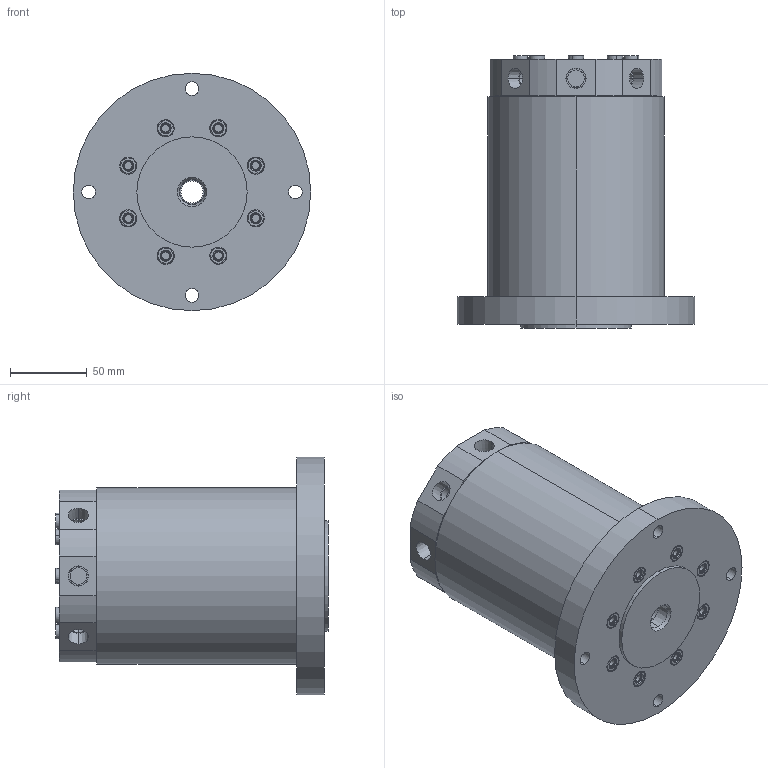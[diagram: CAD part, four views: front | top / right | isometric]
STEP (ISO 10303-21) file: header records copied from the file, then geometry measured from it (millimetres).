
FILE_DESCRIPTION((' '),'2;1');
FILE_NAME( 'PTMB08.x_t.stp', '2025-01-06T11:27:59', (' '), ('--- Datakit www.datakit.com---'), ' Datakit CrossCadWare V2024.1 Dec 21 2023', 'Mastercam 2025', ' ');
FILE_SCHEMA(('AUTOMOTIVE_DESIGN { 1 0 10303 214 1 1 1 1 }'));
Length unit declared in the file: millimetre
Products named in the file (1): PTMB08
Bounding box: 155 x 177.73 x 155 mm (x, y, z)
Volume: 1885786.5 mm3; surface area: 152953.8 mm2
Topology: 18 solids, 18 shells, 488 faces, 1202 edges, 820 vertices
Faces by surface type: plane 178, cylinder 174, cone 72, torus 64
Entity records: 15599 total; most frequent: CARTESIAN_POINT 2979, DIRECTION 2856, ORIENTED_EDGE 2404, AXIS2_PLACEMENT_3D 1213, EDGE_CURVE 1202, VERTEX_POINT 820, CIRCLE 724, EDGE_LOOP 602
